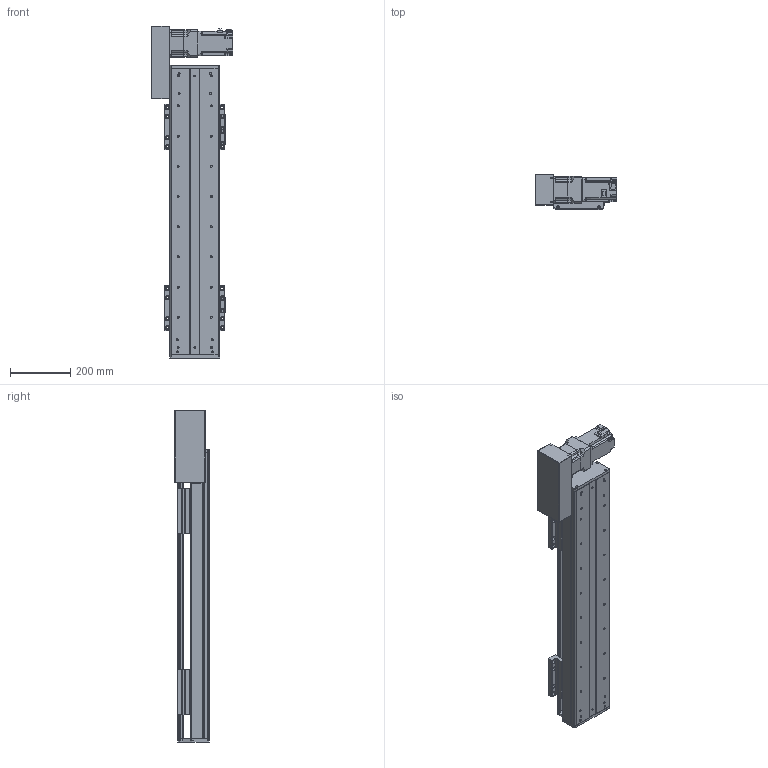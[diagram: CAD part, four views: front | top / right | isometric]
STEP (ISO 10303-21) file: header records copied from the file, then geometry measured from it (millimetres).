
FILE_DESCRIPTION(/* description */ (''),/* implementation_level */ '2;1');
FILE_NAME(/* name */ 'C:\Users\PC\Desktop\3D도면\STEP\DSB165-L7G-W0600-R.stp',/* time_stamp */ '2018-06-25T14:27:51+09:00',/* author */ ('PC'),/* organization */ (''),/* preprocessor_version */ 'ST-DEVELOPER v16.5',/* originating_system */ 'Autodesk Inventor 2017',/* authorisation */ '');
FILE_SCHEMA (('AUTOMOTIVE_DESIGN { 1 0 10303 214 3 1 1 }'));
Length unit declared in the file: millimetre
Products named in the file (12): DSB165-L; DSR165-BASE_S; hg-kr73_; ab0901-p0401300102; 11-DBS165 BELT COVER; DBS165-COVER; DBS165-COVER_1; DBS165-UP COVER; DBS165-TABLE(MSA20S); DSR126-SENSOR DOG; pm-y65_step; SENSOR BRACKET(EE-SX674A)
Assembly tree (16 placements, depth 2):
  DSB165-L
    DSR165-BASE_S
    hg-kr73_
    ab0901-p0401300102
    11-DBS165 BELT COVER
    DBS165-COVER
    DBS165-COVER_1
    DBS165-UP COVER
    DBS165-TABLE(MSA20S)  x2
    DSR126-SENSOR DOG
    pm-y65_step  x3
    SENSOR BRACKET(EE-SX674A)  x3
Bounding box: 270 x 115 x 1100 mm (x, y, z)
Volume: 7038603.3 mm3; surface area: 1620192.9 mm2
Topology: 17 solids, 22 shells, 1663 faces, 4465 edges, 2946 vertices
Faces by surface type: plane 926, cylinder 617, cone 108, sphere 8, torus 4
Full cylindrical faces by diameter (mm): 2.459 x20, 3.5 x6, 4.134 x42, 4.5 x18, 5 x27, 5.5 x36, 5.9 x4, 6 x8, 6.6 x14, 6.647 x36, 6.8 x1, 7 x4, 7.6 x4, 8 x1, 8.4 x1, 8.5 x24, 8.7 x1, 9.5 x32, 11 x6, 14 x16, 19 x1, 22 x1, 24 x1, 25 x1, 28 x1, 67 x1, 70 x2, 80 x1
Entity records: 35389 total; most frequent: DIRECTION 6252, CARTESIAN_POINT 6067, ORIENTED_EDGE 5526, EDGE_CURVE 2768, AXIS2_PLACEMENT_3D 2296, VERTEX_POINT 1973, EDGE_LOOP 1723, LINE 1660
